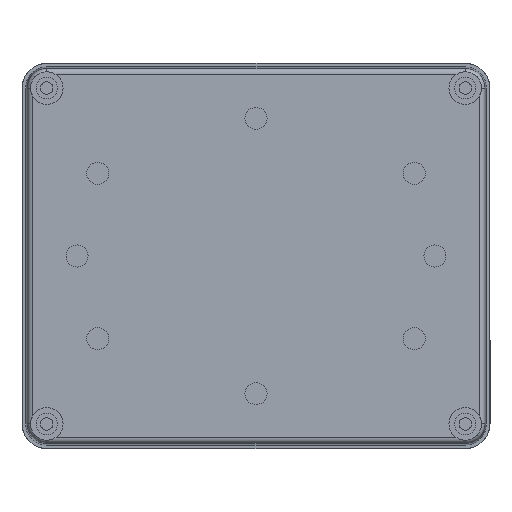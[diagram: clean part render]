
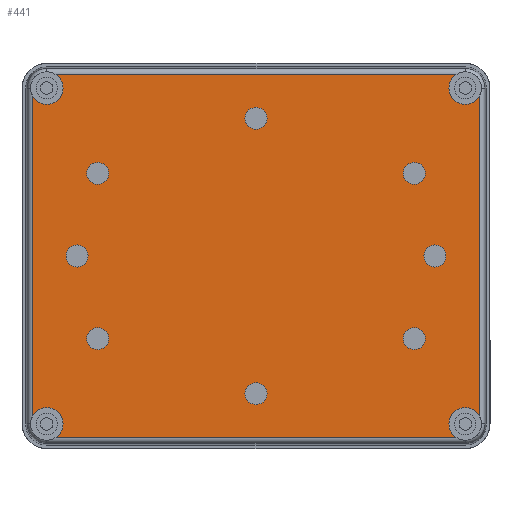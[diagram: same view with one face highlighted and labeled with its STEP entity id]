
A CAD part, front view. The second image highlights one B-rep face of the part: STEP entity #441.
In plain terms, the highlighted planar face has unit normal (0, -1, 0).
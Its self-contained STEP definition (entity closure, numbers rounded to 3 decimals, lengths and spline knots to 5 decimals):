
#441=ADVANCED_FACE('0:289',(#1138,#1139,#1140,#1141,#1142,#1143,#1144,#1145,#1146),#1147,.F.);
#1138=FACE_BOUND('',#2053,.T.);
#1139=FACE_BOUND('',#2054,.T.);
#1140=FACE_BOUND('',#2055,.T.);
#1141=FACE_BOUND('',#2056,.T.);
#1142=FACE_BOUND('',#2057,.T.);
#1143=FACE_BOUND('',#2058,.T.);
#1144=FACE_BOUND('',#2059,.T.);
#1145=FACE_BOUND('',#2060,.T.);
#1146=FACE_OUTER_BOUND('',#2061,.T.);
#1147=PLANE('',#2062);
#2053=EDGE_LOOP('',(#4753,#4754));
#2054=EDGE_LOOP('',(#4755,#4756));
#2055=EDGE_LOOP('',(#4757,#4758));
#2056=EDGE_LOOP('',(#4759,#4760));
#2057=EDGE_LOOP('',(#4761,#4762));
#2058=EDGE_LOOP('',(#4763,#4764));
#2059=EDGE_LOOP('',(#4765,#4766));
#2060=EDGE_LOOP('',(#4767,#4768));
#2061=EDGE_LOOP('',(#4769,#4770,#4771,#4772,#4773,#4774,#4775,#4776,#4777,#4778,#4779,#4780));
#2062=AXIS2_PLACEMENT_3D('',#4781,#4782,#4783);
#4753=ORIENTED_EDGE('',*,*,#6868,.T.);
#4754=ORIENTED_EDGE('',*,*,#6576,.T.);
#4755=ORIENTED_EDGE('',*,*,#6632,.T.);
#4756=ORIENTED_EDGE('',*,*,#6628,.T.);
#4757=ORIENTED_EDGE('',*,*,#6869,.T.);
#4758=ORIENTED_EDGE('',*,*,#6441,.T.);
#4759=ORIENTED_EDGE('',*,*,#6870,.T.);
#4760=ORIENTED_EDGE('',*,*,#6445,.T.);
#4761=ORIENTED_EDGE('',*,*,#6871,.T.);
#4762=ORIENTED_EDGE('',*,*,#6449,.T.);
#4763=ORIENTED_EDGE('',*,*,#6872,.T.);
#4764=ORIENTED_EDGE('',*,*,#6453,.T.);
#4765=ORIENTED_EDGE('',*,*,#6873,.T.);
#4766=ORIENTED_EDGE('',*,*,#6457,.T.);
#4767=ORIENTED_EDGE('',*,*,#6874,.T.);
#4768=ORIENTED_EDGE('',*,*,#6461,.T.);
#4769=ORIENTED_EDGE('',*,*,#6436,.F.);
#4770=ORIENTED_EDGE('',*,*,#6875,.T.);
#4771=ORIENTED_EDGE('',*,*,#6876,.F.);
#4772=ORIENTED_EDGE('',*,*,#6431,.F.);
#4773=ORIENTED_EDGE('',*,*,#6877,.T.);
#4774=ORIENTED_EDGE('',*,*,#6566,.F.);
#4775=ORIENTED_EDGE('',*,*,#6878,.F.);
#4776=ORIENTED_EDGE('',*,*,#6879,.T.);
#4777=ORIENTED_EDGE('',*,*,#6561,.F.);
#4778=ORIENTED_EDGE('',*,*,#6880,.F.);
#4779=ORIENTED_EDGE('',*,*,#6881,.T.);
#4780=ORIENTED_EDGE('',*,*,#6882,.F.);
#4781=CARTESIAN_POINT('',(-0.076,-0.075,-0.061));
#4782=DIRECTION('',(0.0,1.0,0.0));
#4783=DIRECTION('',(0.0,0.0,1.0));
#6431=EDGE_CURVE('0:1498',#7677,#7679,#7680,.T.);
#6436=EDGE_CURVE('0:1492',#7687,#7689,#7690,.F.);
#6441=EDGE_CURVE('0:1474',#7699,#7696,#7700,.T.);
#6445=EDGE_CURVE('0:1477',#7707,#7704,#7708,.T.);
#6449=EDGE_CURVE('0:1480',#7715,#7712,#7716,.T.);
#6453=EDGE_CURVE('0:1483',#7723,#7720,#7724,.T.);
#6457=EDGE_CURVE('0:1486',#7731,#7728,#7732,.T.);
#6461=EDGE_CURVE('0:1489',#7739,#7736,#7740,.T.);
#6561=EDGE_CURVE('0:1510',#7936,#7939,#7940,.T.);
#6566=EDGE_CURVE('0:1504',#7946,#7949,#7950,.F.);
#6576=EDGE_CURVE('0:1471',#7969,#7966,#7970,.T.);
#6628=EDGE_CURVE('0:751',#8073,#8070,#8074,.T.);
#6632=EDGE_CURVE('0:751',#8070,#8073,#8079,.T.);
#6868=EDGE_CURVE('0:1471',#7966,#7969,#8465,.T.);
#6869=EDGE_CURVE('0:1474',#7696,#7699,#8466,.T.);
#6870=EDGE_CURVE('0:1477',#7704,#7707,#8467,.T.);
#6871=EDGE_CURVE('0:1480',#7712,#7715,#8468,.T.);
#6872=EDGE_CURVE('0:1483',#7720,#7723,#8469,.T.);
#6873=EDGE_CURVE('0:1486',#7728,#7731,#8470,.T.);
#6874=EDGE_CURVE('0:1489',#7736,#7739,#8471,.T.);
#6875=EDGE_CURVE('0:1495',#7687,#8472,#8473,.F.);
#6876=EDGE_CURVE('0:1498',#7679,#8472,#8474,.T.);
#6877=EDGE_CURVE('0:1501',#7677,#7949,#8475,.F.);
#6878=EDGE_CURVE('0:1504',#8476,#7946,#8477,.F.);
#6879=EDGE_CURVE('0:1507',#8476,#7939,#8478,.F.);
#6880=EDGE_CURVE('0:1510',#8479,#7936,#8480,.T.);
#6881=EDGE_CURVE('0:1513',#8479,#8481,#8482,.F.);
#6882=EDGE_CURVE('0:1492',#7689,#8481,#8483,.F.);
#7677=VERTEX_POINT('',#9667);
#7679=VERTEX_POINT('',#9669);
#7680=CIRCLE('',#9670,0.0059);
#7687=VERTEX_POINT('',#9679);
#7689=VERTEX_POINT('',#9681);
#7690=CIRCLE('',#9682,0.0059);
#7696=VERTEX_POINT('',#9689);
#7699=VERTEX_POINT('',#9693);
#7700=CIRCLE('',#9694,0.004);
#7704=VERTEX_POINT('',#9699);
#7707=VERTEX_POINT('',#9703);
#7708=CIRCLE('',#9704,0.004);
#7712=VERTEX_POINT('',#9709);
#7715=VERTEX_POINT('',#9713);
#7716=CIRCLE('',#9714,0.004);
#7720=VERTEX_POINT('',#9719);
#7723=VERTEX_POINT('',#9723);
#7724=CIRCLE('',#9724,0.004);
#7728=VERTEX_POINT('',#9729);
#7731=VERTEX_POINT('',#9733);
#7732=CIRCLE('',#9734,0.004);
#7736=VERTEX_POINT('',#9739);
#7739=VERTEX_POINT('',#9743);
#7740=CIRCLE('',#9744,0.004);
#7936=VERTEX_POINT('',#9989);
#7939=VERTEX_POINT('',#9993);
#7940=CIRCLE('',#9994,0.0059);
#7946=VERTEX_POINT('',#10001);
#7949=VERTEX_POINT('',#10005);
#7950=CIRCLE('',#10006,0.0059);
#7966=VERTEX_POINT('',#10025);
#7969=VERTEX_POINT('',#10029);
#7970=CIRCLE('',#10030,0.004);
#8070=VERTEX_POINT('',#10155);
#8073=VERTEX_POINT('',#10159);
#8074=CIRCLE('',#10160,0.004);
#8079=CIRCLE('',#10166,0.004);
#8465=CIRCLE('',#10729,0.004);
#8466=CIRCLE('',#10730,0.004);
#8467=CIRCLE('',#10731,0.004);
#8468=CIRCLE('',#10732,0.004);
#8469=CIRCLE('',#10733,0.004);
#8470=CIRCLE('',#10734,0.004);
#8471=CIRCLE('',#10735,0.004);
#8472=VERTEX_POINT('',#10736);
#8473=LINE('',#10737,#10738);
#8474=CIRCLE('',#10739,0.0059);
#8475=LINE('',#10740,#10741);
#8476=VERTEX_POINT('',#10742);
#8477=CIRCLE('',#10743,0.0059);
#8478=LINE('',#10744,#10745);
#8479=VERTEX_POINT('',#10746);
#8480=CIRCLE('',#10747,0.0059);
#8481=VERTEX_POINT('',#10748);
#8482=LINE('',#10749,#10750);
#8483=CIRCLE('',#10751,0.0059);
#9667=CARTESIAN_POINT('',(-0.08106,-0.075,0.05797));
#9669=CARTESIAN_POINT('',(-0.076,-0.075,0.0551));
#9670=AXIS2_PLACEMENT_3D('',#12020,#12021,#12022);
#9679=CARTESIAN_POINT('',(0.07297,-0.075,0.06606));
#9681=CARTESIAN_POINT('',(0.076,-0.075,0.0551));
#9682=AXIS2_PLACEMENT_3D('',#12031,#12032,#12033);
#9689=CARTESIAN_POINT('',(-0.0575,-0.075,0.034));
#9693=CARTESIAN_POINT('',(-0.0575,-0.075,0.026));
#9694=AXIS2_PLACEMENT_3D('',#12042,#12043,#12044);
#9699=CARTESIAN_POINT('',(0.,-0.075,-0.046));
#9703=CARTESIAN_POINT('',(0.,-0.075,-0.054));
#9704=AXIS2_PLACEMENT_3D('',#12050,#12051,#12052);
#9709=CARTESIAN_POINT('',(0.0,-0.075,0.054));
#9713=CARTESIAN_POINT('',(0.,-0.075,0.046));
#9714=AXIS2_PLACEMENT_3D('',#12058,#12059,#12060);
#9719=CARTESIAN_POINT('',(0.0575,-0.075,0.034));
#9723=CARTESIAN_POINT('',(0.0575,-0.075,0.026));
#9724=AXIS2_PLACEMENT_3D('',#12066,#12067,#12068);
#9729=CARTESIAN_POINT('',(0.065,-0.075,0.004));
#9733=CARTESIAN_POINT('',(0.065,-0.075,-0.004));
#9734=AXIS2_PLACEMENT_3D('',#12074,#12075,#12076);
#9739=CARTESIAN_POINT('',(-0.065,-0.075,0.004));
#9743=CARTESIAN_POINT('',(-0.065,-0.075,-0.004));
#9744=AXIS2_PLACEMENT_3D('',#12082,#12083,#12084);
#9989=CARTESIAN_POINT('',(0.076,-0.075,-0.0551));
#9993=CARTESIAN_POINT('',(0.07297,-0.075,-0.06606));
#9994=AXIS2_PLACEMENT_3D('',#12282,#12283,#12284);
#10001=CARTESIAN_POINT('',(-0.076,-0.075,-0.0551));
#10005=CARTESIAN_POINT('',(-0.08106,-0.075,-0.05797));
#10006=AXIS2_PLACEMENT_3D('',#12293,#12294,#12295);
#10025=CARTESIAN_POINT('',(0.0575,-0.075,-0.026));
#10029=CARTESIAN_POINT('',(0.0575,-0.075,-0.034));
#10030=AXIS2_PLACEMENT_3D('',#12315,#12316,#12317);
#10155=CARTESIAN_POINT('',(-0.0575,-0.075,-0.026));
#10159=CARTESIAN_POINT('',(-0.0575,-0.075,-0.034));
#10160=AXIS2_PLACEMENT_3D('',#12419,#12420,#12421);
#10166=AXIS2_PLACEMENT_3D('',#12429,#12430,#12431);
#10729=AXIS2_PLACEMENT_3D('',#12783,#12784,#12785);
#10730=AXIS2_PLACEMENT_3D('',#12786,#12787,#12788);
#10731=AXIS2_PLACEMENT_3D('',#12789,#12790,#12791);
#10732=AXIS2_PLACEMENT_3D('',#12792,#12793,#12794);
#10733=AXIS2_PLACEMENT_3D('',#12795,#12796,#12797);
#10734=AXIS2_PLACEMENT_3D('',#12798,#12799,#12800);
#10735=AXIS2_PLACEMENT_3D('',#12801,#12802,#12803);
#10736=CARTESIAN_POINT('',(-0.07297,-0.075,0.06606));
#10737=CARTESIAN_POINT('',(-0.076,-0.075,0.06606));
#10738=VECTOR('',#12804,1.0);
#10739=AXIS2_PLACEMENT_3D('',#12805,#12806,#12807);
#10740=CARTESIAN_POINT('',(-0.08106,-0.075,-0.061));
#10741=VECTOR('',#12808,1.0);
#10742=CARTESIAN_POINT('',(-0.07297,-0.075,-0.06606));
#10743=AXIS2_PLACEMENT_3D('',#12809,#12810,#12811);
#10744=CARTESIAN_POINT('',(0.076,-0.075,-0.06606));
#10745=VECTOR('',#12812,1.0);
#10746=CARTESIAN_POINT('',(0.08106,-0.075,-0.05797));
#10747=AXIS2_PLACEMENT_3D('',#12813,#12814,#12815);
#10748=CARTESIAN_POINT('',(0.08106,-0.075,0.05797));
#10749=CARTESIAN_POINT('',(0.08106,-0.075,0.061));
#10750=VECTOR('',#12816,1.0);
#10751=AXIS2_PLACEMENT_3D('',#12817,#12818,#12819);
#12020=CARTESIAN_POINT('',(-0.076,-0.075,0.061));
#12021=DIRECTION('',(0.0,-1.0,0.0));
#12022=DIRECTION('',(1.0,0.0,0.0));
#12031=CARTESIAN_POINT('',(0.076,-0.075,0.061));
#12032=DIRECTION('',(0.0,1.0,0.0));
#12033=DIRECTION('',(-1.0,0.0,0.0));
#12042=CARTESIAN_POINT('',(-0.0575,-0.075,0.03));
#12043=DIRECTION('',(0.0,1.0,0.0));
#12044=DIRECTION('',(0.0,0.0,1.0));
#12050=CARTESIAN_POINT('',(0.,-0.075,-0.05));
#12051=DIRECTION('',(0.0,1.0,0.0));
#12052=DIRECTION('',(0.0,0.0,1.0));
#12058=CARTESIAN_POINT('',(0.0,-0.075,0.05));
#12059=DIRECTION('',(0.0,1.0,0.0));
#12060=DIRECTION('',(0.0,0.0,1.0));
#12066=CARTESIAN_POINT('',(0.0575,-0.075,0.03));
#12067=DIRECTION('',(0.0,1.0,0.0));
#12068=DIRECTION('',(0.0,0.0,1.0));
#12074=CARTESIAN_POINT('',(0.065,-0.075,0.0));
#12075=DIRECTION('',(0.0,1.0,0.0));
#12076=DIRECTION('',(0.0,0.0,1.0));
#12082=CARTESIAN_POINT('',(-0.065,-0.075,0.));
#12083=DIRECTION('',(0.0,1.0,0.0));
#12084=DIRECTION('',(0.0,0.0,1.0));
#12282=CARTESIAN_POINT('',(0.076,-0.075,-0.061));
#12283=DIRECTION('',(0.0,-1.0,0.0));
#12284=DIRECTION('',(1.0,0.0,0.0));
#12293=CARTESIAN_POINT('',(-0.076,-0.075,-0.061));
#12294=DIRECTION('',(0.0,1.0,0.0));
#12295=DIRECTION('',(-1.0,0.0,0.0));
#12315=CARTESIAN_POINT('',(0.0575,-0.075,-0.03));
#12316=DIRECTION('',(0.0,1.0,0.0));
#12317=DIRECTION('',(0.0,0.0,1.0));
#12419=CARTESIAN_POINT('',(-0.0575,-0.075,-0.03));
#12420=DIRECTION('',(0.0,1.0,0.0));
#12421=DIRECTION('',(0.0,0.0,1.0));
#12429=CARTESIAN_POINT('',(-0.0575,-0.075,-0.03));
#12430=DIRECTION('',(0.0,1.0,0.0));
#12431=DIRECTION('',(0.0,0.0,1.0));
#12783=CARTESIAN_POINT('',(0.0575,-0.075,-0.03));
#12784=DIRECTION('',(0.0,1.0,0.0));
#12785=DIRECTION('',(0.0,0.0,1.0));
#12786=CARTESIAN_POINT('',(-0.0575,-0.075,0.03));
#12787=DIRECTION('',(0.0,1.0,0.0));
#12788=DIRECTION('',(0.0,0.0,1.0));
#12789=CARTESIAN_POINT('',(0.,-0.075,-0.05));
#12790=DIRECTION('',(0.0,1.0,0.0));
#12791=DIRECTION('',(0.0,0.0,1.0));
#12792=CARTESIAN_POINT('',(0.0,-0.075,0.05));
#12793=DIRECTION('',(0.0,1.0,0.0));
#12794=DIRECTION('',(0.0,0.0,1.0));
#12795=CARTESIAN_POINT('',(0.0575,-0.075,0.03));
#12796=DIRECTION('',(0.0,1.0,0.0));
#12797=DIRECTION('',(0.0,0.0,1.0));
#12798=CARTESIAN_POINT('',(0.065,-0.075,0.0));
#12799=DIRECTION('',(0.0,1.0,0.0));
#12800=DIRECTION('',(0.0,0.0,1.0));
#12801=CARTESIAN_POINT('',(-0.065,-0.075,0.));
#12802=DIRECTION('',(0.0,1.0,0.0));
#12803=DIRECTION('',(0.0,0.0,1.0));
#12804=DIRECTION('',(1.0,0.0,0.0));
#12805=CARTESIAN_POINT('',(-0.076,-0.075,0.061));
#12806=DIRECTION('',(0.0,-1.0,0.0));
#12807=DIRECTION('',(1.0,0.0,0.0));
#12808=DIRECTION('',(0.0,0.0,1.0));
#12809=CARTESIAN_POINT('',(-0.076,-0.075,-0.061));
#12810=DIRECTION('',(0.0,1.0,0.0));
#12811=DIRECTION('',(-1.0,0.0,0.0));
#12812=DIRECTION('',(-1.0,0.0,0.));
#12813=CARTESIAN_POINT('',(0.076,-0.075,-0.061));
#12814=DIRECTION('',(0.0,-1.0,0.0));
#12815=DIRECTION('',(1.0,0.0,0.0));
#12816=DIRECTION('',(0.,0.0,-1.0));
#12817=CARTESIAN_POINT('',(0.076,-0.075,0.061));
#12818=DIRECTION('',(0.0,1.0,0.0));
#12819=DIRECTION('',(-1.0,0.0,0.0));
